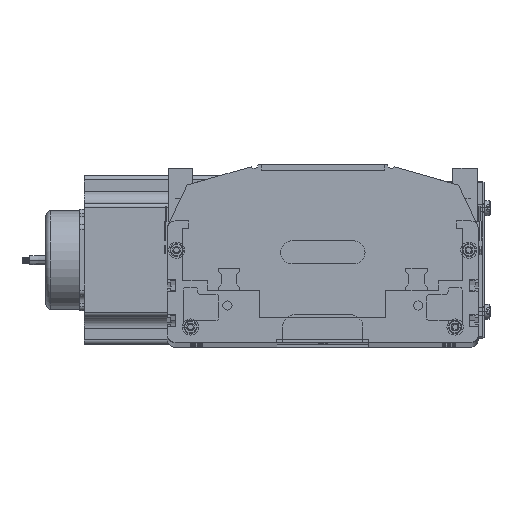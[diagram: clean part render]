
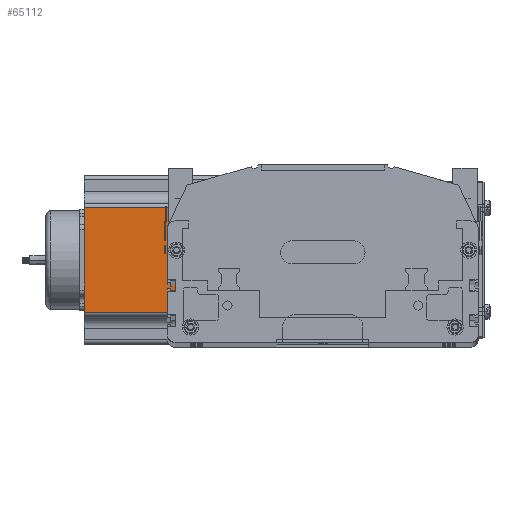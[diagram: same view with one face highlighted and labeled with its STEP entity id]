
A CAD part, top view. The second image highlights one B-rep face of the part: STEP entity #65112.
In plain terms, the highlighted planar face has unit normal (0, 0, 1) as drawn and (0, -1, 0) by its records, which use the part's own axes.
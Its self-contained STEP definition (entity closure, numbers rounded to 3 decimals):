
#49175 = CARTESIAN_POINT ( 'NONE',  ( 21.048, 0., 160.5 ) ) ;
#49193 = DIRECTION ( 'NONE',  ( 1., 0., 0. ) ) ;
#49195 = VECTOR ( 'NONE', #49193, 1000. ) ;
#49197 = CARTESIAN_POINT ( 'NONE',  ( 88.952, 0., 160.5 ) ) ;
#49200 = DIRECTION ( 'NONE',  ( 1., 0., 0. ) ) ;
#49201 = VECTOR ( 'NONE', #49200, 1000. ) ;
#49202 = CARTESIAN_POINT ( 'NONE',  ( 0., 0., 0. ) ) ;
#49204 = DIRECTION ( 'NONE',  ( 0., 0., 1. ) ) ;
#49205 = VECTOR ( 'NONE', #49204, 1000. ) ;
#49206 = CARTESIAN_POINT ( 'NONE',  ( 88.952, 0., 160.5 ) ) ;
#49207 = LINE ( 'NONE', #49206, #49205 ) ;
#49208 = CARTESIAN_POINT ( 'NONE',  ( 0., 0., 160.5 ) ) ;
#49209 = LINE ( 'NONE', #49208, #49195 ) ;
#49213 = CARTESIAN_POINT ( 'NONE',  ( 88.952, 0., 0. ) ) ;
#49214 = LINE ( 'NONE', #49202, #49201 ) ;
#49508 = CARTESIAN_POINT ( 'NONE',  ( 21.048, 0., 0. ) ) ;
#49659 = DIRECTION ( 'NONE',  ( 0., 0., 1. ) ) ;
#49660 = DIRECTION ( 'NONE',  ( 0., 1., 0. ) ) ;
#49662 = FACE_OUTER_BOUND ( 'NONE', #65010, .T. ) ;
#49680 = CARTESIAN_POINT ( 'NONE',  ( 0., 0., 160.5 ) ) ;
#49682 = PLANE ( 'NONE',  #49808 ) ;
#49768 = DIRECTION ( 'NONE',  ( 0., 0., -1. ) ) ;
#49769 = VECTOR ( 'NONE', #49768, 1000. ) ;
#49770 = CARTESIAN_POINT ( 'NONE',  ( 21.048, 0., 160.5 ) ) ;
#49771 = LINE ( 'NONE', #49770, #49769 ) ;
#49808 = AXIS2_PLACEMENT_3D ( 'NONE', #49680, #49660, #49659 ) ;
#64984 = VERTEX_POINT ( 'NONE', #49213 ) ;
#64985 = EDGE_CURVE ( 'NONE', #64984, #64991, #49207, .T. ) ;
#64986 = EDGE_CURVE ( 'NONE', #65001, #64984, #49214, .T. ) ;
#64988 = VERTEX_POINT ( 'NONE', #49175 ) ;
#64989 = ORIENTED_EDGE ( 'NONE', *, *, #64985, .T. ) ;
#64990 = EDGE_CURVE ( 'NONE', #64988, #64991, #49209, .T. ) ;
#64991 = VERTEX_POINT ( 'NONE', #49197 ) ;
#65001 = VERTEX_POINT ( 'NONE', #49508 ) ;
#65005 = ORIENTED_EDGE ( 'NONE', *, *, #64986, .T. ) ;
#65010 = EDGE_LOOP ( 'NONE', ( #65005, #64989, #65118, #65122 ) ) ;
#65112 = ADVANCED_FACE ( 'NONE', ( #49662 ), #49682, .F. ) ;
#65118 = ORIENTED_EDGE ( 'NONE', *, *, #64990, .F. ) ;
#65119 = EDGE_CURVE ( 'NONE', #64988, #65001, #49771, .T. ) ;
#65122 = ORIENTED_EDGE ( 'NONE', *, *, #65119, .T. ) ;
